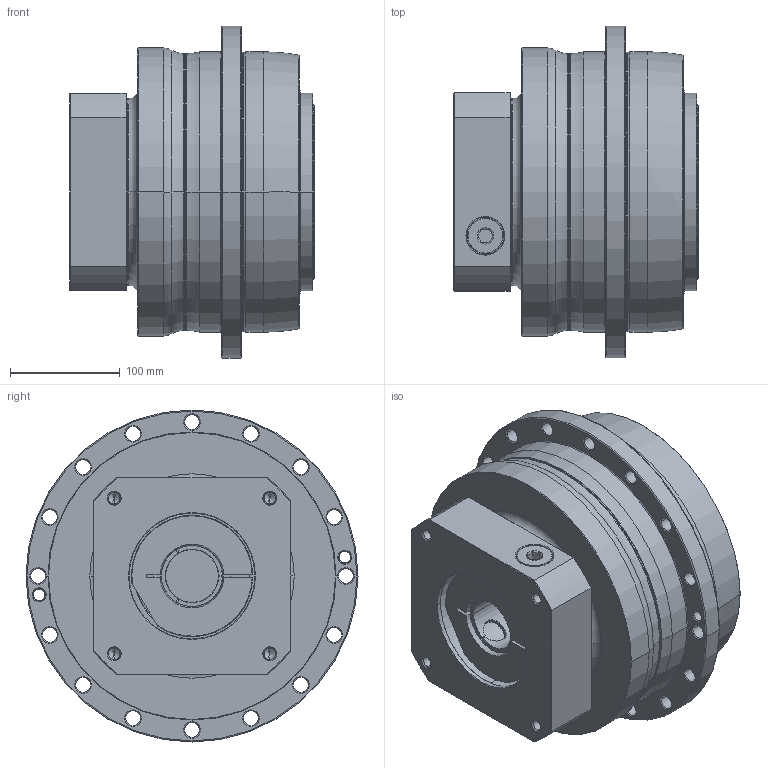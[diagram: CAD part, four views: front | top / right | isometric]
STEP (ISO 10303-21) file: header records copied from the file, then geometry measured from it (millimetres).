
FILE_DESCRIPTION((''),'2;1');
FILE_NAME('AH255_1ST_48-P0409B00101_ASM','2016-10-06T',('d00435'),(''),'PRO/ENGINEER BY PARAMETRIC TECHNOLOGY CORPORATION, 2008410','PRO/ENGINEER BY PARAMETRIC TECHNOLOGY CORPORATION, 2008410','');
FILE_SCHEMA(('CONFIG_CONTROL_DESIGN'));
Length unit declared in the file: millimetre
Products named in the file (8): P0278700003; P0359700003; P1318700301; P0409B00101; P0503B00016; P0912703201; 21711426021; AH255_1ST_48-P0409B00101_ASM
Assembly tree (7 placements, depth 2):
  AH255_1ST_48-P0409B00101_ASM
    P0278700003
    P0359700003
    P1318700301
    P0409B00101
    P0503B00016
    P0912703201
    21711426021
Bounding box: 222 x 302 x 302 mm (x, y, z)
Volume: 9448938.9 mm3; surface area: 764588.2 mm2
Topology: 8 solids, 34 shells, 652 faces, 1539 edges, 929 vertices
Faces by surface type: cylinder 270, cone 192, plane 116, torus 60, bspline 14
Entity records: 23542 total; most frequent: CARTESIAN_POINT 8076, DIRECTION 3555, ORIENTED_EDGE 2882, AXIS2_PLACEMENT_3D 1511, EDGE_CURVE 1493, VERTEX_POINT 929, CIRCLE 846, EDGE_LOOP 774
